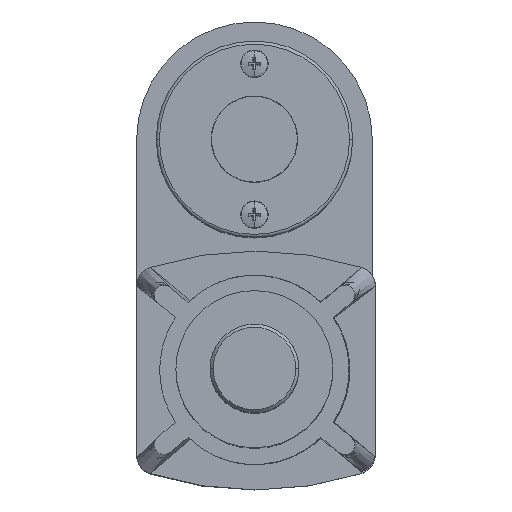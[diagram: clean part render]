
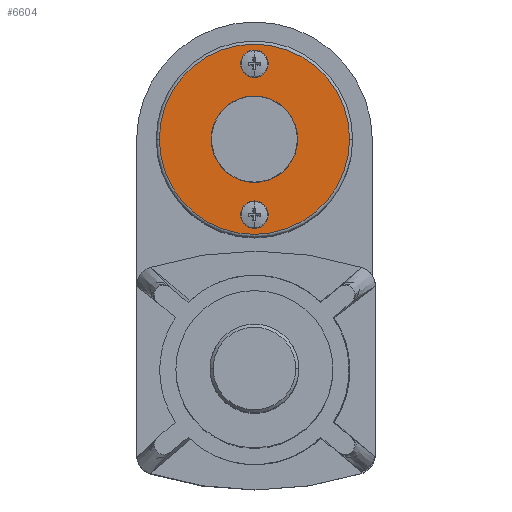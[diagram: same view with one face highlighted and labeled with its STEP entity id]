
A CAD part, top view. The second image highlights one B-rep face of the part: STEP entity #6604.
In plain terms, the highlighted planar face has unit normal (0, 0, 1).
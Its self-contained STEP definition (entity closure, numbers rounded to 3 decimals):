
#44 = CARTESIAN_POINT ( 'NONE',  ( 38.608, -31.638, 406.098 ) ) ;
#339 = CARTESIAN_POINT ( 'NONE',  ( 41.148, -7.238, 406.098 ) ) ;
#487 = AXIS2_PLACEMENT_3D ( 'NONE', #4787, #8159, #1290 ) ;
#598 = EDGE_LOOP ( 'NONE', ( #8864, #6492 ) ) ;
#644 = ORIENTED_EDGE ( 'NONE', *, *, #4607, .F. ) ;
#976 = EDGE_CURVE ( 'NONE', #9963, #1051, #9223, .T. ) ;
#1051 = VERTEX_POINT ( 'NONE', #10757 ) ;
#1136 = FACE_BOUND ( 'NONE', #10156, .T. ) ;
#1290 = DIRECTION ( 'NONE',  ( -1., 0., 0. ) ) ;
#1484 = VERTEX_POINT ( 'NONE', #2181 ) ;
#1499 = EDGE_CURVE ( 'NONE', #3971, #10228, #4302, .T. ) ;
#1878 = DIRECTION ( 'NONE',  ( 0., 0., 1. ) ) ;
#2154 = AXIS2_PLACEMENT_3D ( 'NONE', #10240, #5150, #8557 ) ;
#2181 = CARTESIAN_POINT ( 'NONE',  ( 36.068, -56.038, 406.098 ) ) ;
#2563 = AXIS2_PLACEMENT_3D ( 'NONE', #8340, #5804, #4027 ) ;
#2679 = ORIENTED_EDGE ( 'NONE', *, *, #1499, .F. ) ;
#2752 = CARTESIAN_POINT ( 'NONE',  ( 38.608, -56.038, 406.098 ) ) ;
#2779 = DIRECTION ( 'NONE',  ( -1., 0., 0. ) ) ;
#3312 = CARTESIAN_POINT ( 'NONE',  ( 69.358, -31.638, 406.098 ) ) ;
#3338 = VERTEX_POINT ( 'NONE', #5853 ) ;
#3391 = FACE_BOUND ( 'NONE', #598, .T. ) ;
#3515 = CARTESIAN_POINT ( 'NONE',  ( 36.068, -7.238, 406.098 ) ) ;
#3659 = CARTESIAN_POINT ( 'NONE',  ( 38.608, -31.638, 406.098 ) ) ;
#3875 = CIRCLE ( 'NONE', #6898, 2.54 ) ;
#3971 = VERTEX_POINT ( 'NONE', #3515 ) ;
#4027 = DIRECTION ( 'NONE',  ( -1., 0., 0. ) ) ;
#4302 = CIRCLE ( 'NONE', #2563, 2.54 ) ;
#4607 = EDGE_CURVE ( 'NONE', #10228, #3971, #8797, .T. ) ;
#4787 = CARTESIAN_POINT ( 'NONE',  ( 38.608, -31.638, 406.098 ) ) ;
#5150 = DIRECTION ( 'NONE',  ( 0., 0., 1. ) ) ;
#5245 = CIRCLE ( 'NONE', #2154, 2.54 ) ;
#5429 = EDGE_LOOP ( 'NONE', ( #7635, #7960 ) ) ;
#5550 = AXIS2_PLACEMENT_3D ( 'NONE', #3659, #10606, #7971 ) ;
#5625 = AXIS2_PLACEMENT_3D ( 'NONE', #10457, #1878, #2779 ) ;
#5650 = EDGE_CURVE ( 'NONE', #1484, #3338, #3875, .T. ) ;
#5804 = DIRECTION ( 'NONE',  ( 0., 0., 1. ) ) ;
#5853 = CARTESIAN_POINT ( 'NONE',  ( 41.148, -56.038, 406.098 ) ) ;
#5939 = EDGE_CURVE ( 'NONE', #1051, #9963, #10665, .T. ) ;
#6140 = AXIS2_PLACEMENT_3D ( 'NONE', #44, #8663, #8701 ) ;
#6492 = ORIENTED_EDGE ( 'NONE', *, *, #7750, .F. ) ;
#6604 = ADVANCED_FACE ( 'NONE', ( #3391, #1136, #10061 ), #7345, .T. ) ;
#6824 = DIRECTION ( 'NONE',  ( -1., 0., 0. ) ) ;
#6898 = AXIS2_PLACEMENT_3D ( 'NONE', #2752, #8528, #6824 ) ;
#7345 = PLANE ( 'NONE',  #487 ) ;
#7635 = ORIENTED_EDGE ( 'NONE', *, *, #5939, .T. ) ;
#7750 = EDGE_CURVE ( 'NONE', #3338, #1484, #5245, .T. ) ;
#7960 = ORIENTED_EDGE ( 'NONE', *, *, #976, .T. ) ;
#7971 = DIRECTION ( 'NONE',  ( -1., 0., 0. ) ) ;
#8159 = DIRECTION ( 'NONE',  ( 0., 0., 1. ) ) ;
#8340 = CARTESIAN_POINT ( 'NONE',  ( 38.608, -7.238, 406.098 ) ) ;
#8528 = DIRECTION ( 'NONE',  ( 0., 0., 1. ) ) ;
#8557 = DIRECTION ( 'NONE',  ( -1., 0., 0. ) ) ;
#8663 = DIRECTION ( 'NONE',  ( 0., 0., 1. ) ) ;
#8701 = DIRECTION ( 'NONE',  ( -1., 0., 0. ) ) ;
#8797 = CIRCLE ( 'NONE', #5625, 2.54 ) ;
#8864 = ORIENTED_EDGE ( 'NONE', *, *, #5650, .F. ) ;
#9223 = CIRCLE ( 'NONE', #5550, 30.75 ) ;
#9963 = VERTEX_POINT ( 'NONE', #3312 ) ;
#10061 = FACE_OUTER_BOUND ( 'NONE', #5429, .T. ) ;
#10156 = EDGE_LOOP ( 'NONE', ( #2679, #644 ) ) ;
#10228 = VERTEX_POINT ( 'NONE', #339 ) ;
#10240 = CARTESIAN_POINT ( 'NONE',  ( 38.608, -56.038, 406.098 ) ) ;
#10457 = CARTESIAN_POINT ( 'NONE',  ( 38.608, -7.238, 406.098 ) ) ;
#10606 = DIRECTION ( 'NONE',  ( 0., 0., 1. ) ) ;
#10665 = CIRCLE ( 'NONE', #6140, 30.75 ) ;
#10757 = CARTESIAN_POINT ( 'NONE',  ( 7.858, -31.638, 406.098 ) ) ;
